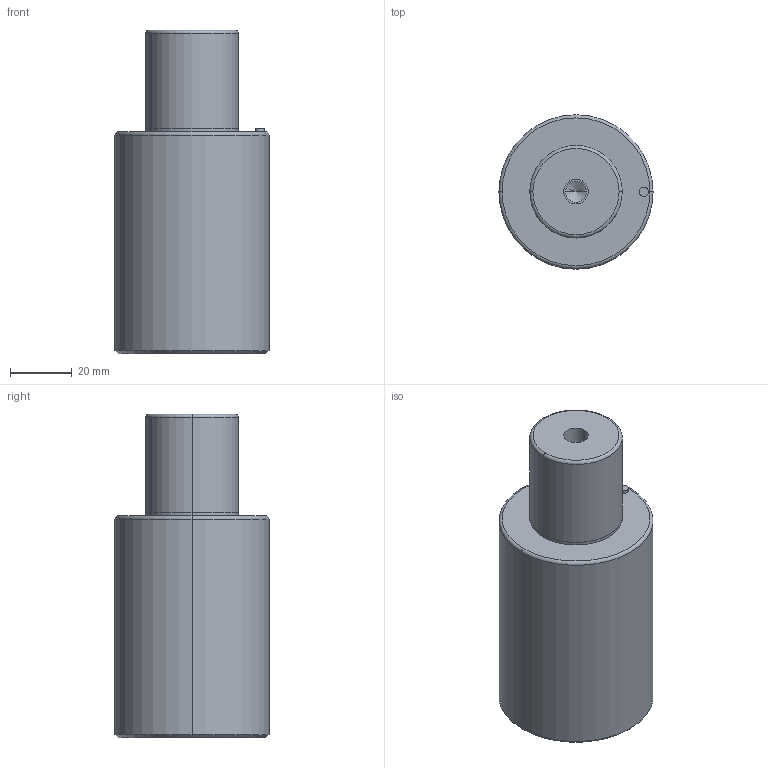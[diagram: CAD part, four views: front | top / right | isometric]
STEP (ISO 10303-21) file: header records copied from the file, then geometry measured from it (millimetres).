
FILE_DESCRIPTION(/* description */ (''),/* implementation_level */ '2;1');
FILE_NAME(/* name */ '3d_gsc50-32_03834_r00.stp',/* time_stamp */ '2011-01-10T14:15:21+09:00',/* author */ ('MISUMI'),/* organization */ (''),/* preprocessor_version */ 'ST-DEVELOPER v11',/* originating_system */ 'UGS - NX 5.0',/* authorisation */ '');
FILE_SCHEMA (('CONFIG_CONTROL_DESIGN'));
Length unit declared in the file: millimetre
Products named in the file (1): 3d_gsc50-32_03834_r00
Bounding box: 50 x 50 x 105 mm (x, y, z)
Volume: 162586.2 mm3; surface area: 19039.5 mm2
Topology: 1 solids, 1 shells, 32 faces, 66 edges, 38 vertices
Faces by surface type: cylinder 16, cone 6, plane 6, torus 4
Entity records: 912 total; most frequent: DIRECTION 168, CARTESIAN_POINT 133, ORIENTED_EDGE 124, AXIS2_PLACEMENT_3D 73, EDGE_CURVE 62, CIRCLE 40, EDGE_LOOP 38, VERTEX_POINT 38
